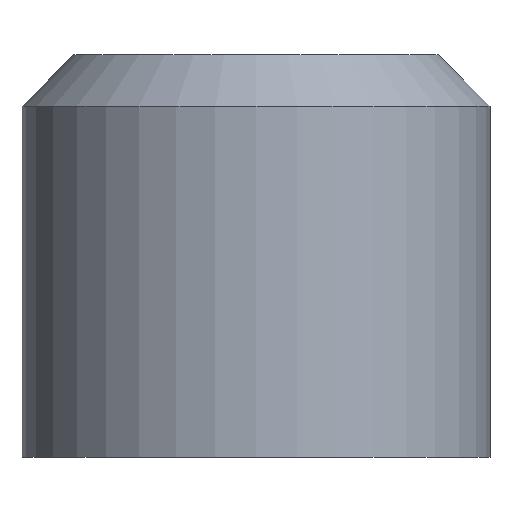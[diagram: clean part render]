
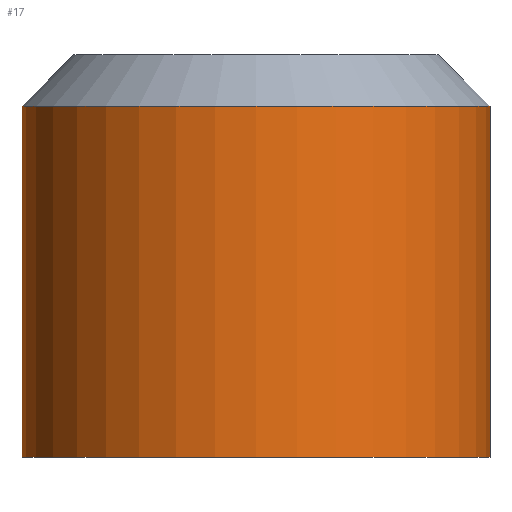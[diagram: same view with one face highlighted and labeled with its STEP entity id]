
A CAD part, front view. The second image highlights one B-rep face of the part: STEP entity #17.
In plain terms, the highlighted cylindrical face has radius 5 mm (diameter 10 mm), a full revolution.
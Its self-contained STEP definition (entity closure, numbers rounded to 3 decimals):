
#17 = ADVANCED_FACE('',(#18),#32,.T.);
#18 = FACE_BOUND('',#19,.F.);
#19 = EDGE_LOOP('',(#20,#50,#77,#78));
#20 = ORIENTED_EDGE('',*,*,#21,.T.);
#21 = EDGE_CURVE('',#22,#24,#26,.T.);
#22 = VERTEX_POINT('',#23);
#23 = CARTESIAN_POINT('',(5.,0.,0.));
#24 = VERTEX_POINT('',#25);
#25 = CARTESIAN_POINT('',(5.,0.,7.5));
#26 = SEAM_CURVE('',#27,(#31,#43),.PCURVE_S1.);
#27 = LINE('',#28,#29);
#28 = CARTESIAN_POINT('',(5.,0.,0.));
#29 = VECTOR('',#30,1.);
#30 = DIRECTION('',(0.,0.,1.));
#31 = PCURVE('',#32,#37);
#32 = CYLINDRICAL_SURFACE('',#33,5.);
#33 = AXIS2_PLACEMENT_3D('',#34,#35,#36);
#34 = CARTESIAN_POINT('',(0.,0.,0.));
#35 = DIRECTION('',(-0.,-0.,-1.));
#36 = DIRECTION('',(1.,0.,0.));
#37 = DEFINITIONAL_REPRESENTATION('',(#38),#42);
#38 = LINE('',#39,#40);
#39 = CARTESIAN_POINT('',(-0.,0.));
#40 = VECTOR('',#41,1.);
#41 = DIRECTION('',(-0.,-1.));
#42 = ( GEOMETRIC_REPRESENTATION_CONTEXT(2) 
PARAMETRIC_REPRESENTATION_CONTEXT() REPRESENTATION_CONTEXT('2D SPACE',''
  ) );
#43 = PCURVE('',#32,#44);
#44 = DEFINITIONAL_REPRESENTATION('',(#45),#49);
#45 = LINE('',#46,#47);
#46 = CARTESIAN_POINT('',(-6.283,0.));
#47 = VECTOR('',#48,1.);
#48 = DIRECTION('',(-0.,-1.));
#49 = ( GEOMETRIC_REPRESENTATION_CONTEXT(2) 
PARAMETRIC_REPRESENTATION_CONTEXT() REPRESENTATION_CONTEXT('2D SPACE',''
  ) );
#50 = ORIENTED_EDGE('',*,*,#51,.T.);
#51 = EDGE_CURVE('',#24,#24,#52,.T.);
#52 = SURFACE_CURVE('',#53,(#58,#65),.PCURVE_S1.);
#53 = CIRCLE('',#54,5.);
#54 = AXIS2_PLACEMENT_3D('',#55,#56,#57);
#55 = CARTESIAN_POINT('',(0.,0.,7.5));
#56 = DIRECTION('',(0.,0.,1.));
#57 = DIRECTION('',(1.,0.,-0.));
#58 = PCURVE('',#32,#59);
#59 = DEFINITIONAL_REPRESENTATION('',(#60),#64);
#60 = LINE('',#61,#62);
#61 = CARTESIAN_POINT('',(-0.,-7.5));
#62 = VECTOR('',#63,1.);
#63 = DIRECTION('',(-1.,0.));
#64 = ( GEOMETRIC_REPRESENTATION_CONTEXT(2) 
PARAMETRIC_REPRESENTATION_CONTEXT() REPRESENTATION_CONTEXT('2D SPACE',''
  ) );
#65 = PCURVE('',#66,#71);
#66 = CONICAL_SURFACE('',#67,5.,0.785);
#67 = AXIS2_PLACEMENT_3D('',#68,#69,#70);
#68 = CARTESIAN_POINT('',(0.,0.,7.5));
#69 = DIRECTION('',(-0.,-0.,-1.));
#70 = DIRECTION('',(1.,0.,0.));
#71 = DEFINITIONAL_REPRESENTATION('',(#72),#76);
#72 = LINE('',#73,#74);
#73 = CARTESIAN_POINT('',(-0.,-0.));
#74 = VECTOR('',#75,1.);
#75 = DIRECTION('',(-1.,-0.));
#76 = ( GEOMETRIC_REPRESENTATION_CONTEXT(2) 
PARAMETRIC_REPRESENTATION_CONTEXT() REPRESENTATION_CONTEXT('2D SPACE',''
  ) );
#77 = ORIENTED_EDGE('',*,*,#21,.F.);
#78 = ORIENTED_EDGE('',*,*,#79,.F.);
#79 = EDGE_CURVE('',#22,#22,#80,.T.);
#80 = SURFACE_CURVE('',#81,(#86,#93),.PCURVE_S1.);
#81 = CIRCLE('',#82,5.);
#82 = AXIS2_PLACEMENT_3D('',#83,#84,#85);
#83 = CARTESIAN_POINT('',(0.,0.,0.));
#84 = DIRECTION('',(0.,0.,1.));
#85 = DIRECTION('',(1.,0.,0.));
#86 = PCURVE('',#32,#87);
#87 = DEFINITIONAL_REPRESENTATION('',(#88),#92);
#88 = LINE('',#89,#90);
#89 = CARTESIAN_POINT('',(-0.,0.));
#90 = VECTOR('',#91,1.);
#91 = DIRECTION('',(-1.,0.));
#92 = ( GEOMETRIC_REPRESENTATION_CONTEXT(2) 
PARAMETRIC_REPRESENTATION_CONTEXT() REPRESENTATION_CONTEXT('2D SPACE',''
  ) );
#93 = PCURVE('',#94,#99);
#94 = PLANE('',#95);
#95 = AXIS2_PLACEMENT_3D('',#96,#97,#98);
#96 = CARTESIAN_POINT('',(0.,0.,0.));
#97 = DIRECTION('',(0.,0.,1.));
#98 = DIRECTION('',(1.,0.,-0.));
#99 = DEFINITIONAL_REPRESENTATION('',(#100),#104);
#100 = CIRCLE('',#101,5.);
#101 = AXIS2_PLACEMENT_2D('',#102,#103);
#102 = CARTESIAN_POINT('',(0.,0.));
#103 = DIRECTION('',(1.,0.));
#104 = ( GEOMETRIC_REPRESENTATION_CONTEXT(2) 
PARAMETRIC_REPRESENTATION_CONTEXT() REPRESENTATION_CONTEXT('2D SPACE',''
  ) );
